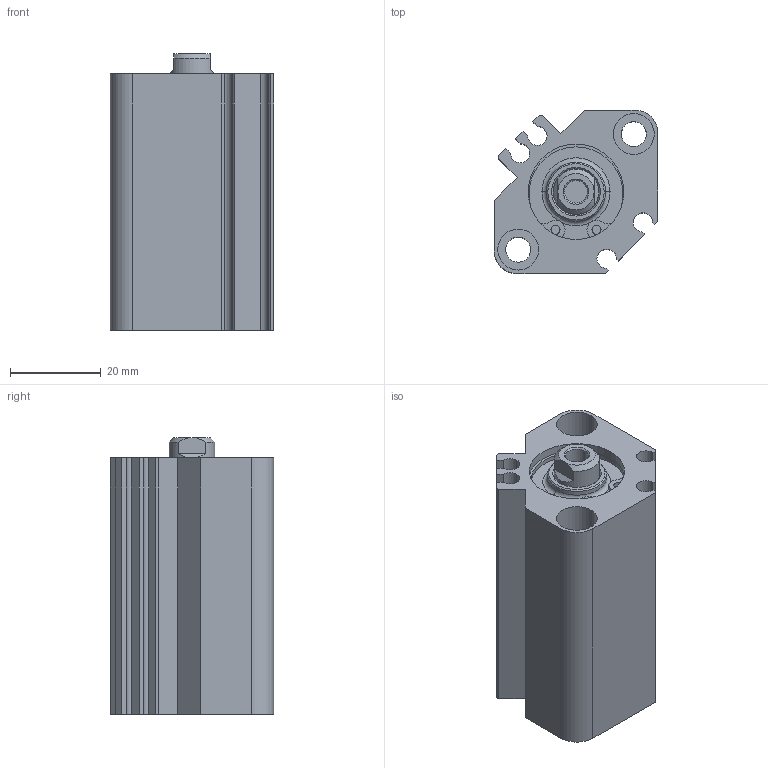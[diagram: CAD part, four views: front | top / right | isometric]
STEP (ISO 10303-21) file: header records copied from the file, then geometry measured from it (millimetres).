
FILE_DESCRIPTION (( 'STEP AP214' ), '1' );
FILE_NAME ('CDQ2B20-25DZ.step.step', '2021-07-24T22:52:47', ( '' ), ( '' ), 'SwSTEP 2.0', 'SolidWorks 2021', '' );
FILE_SCHEMA (( 'AUTOMOTIVE_DESIGN' ));
Length unit declared in the file: millimetre
Products named in the file (4): CDQ2B20-25DZ.step_CQ2 SnapRing_20; CDQ2B20-25DZ.step; CDQ2B20-25DZ.step_CQ2Tube_20BD; CDQ2B20-25DZ.step_CQ22031Rods_20
Assembly tree (3 placements, depth 2):
  CDQ2B20-25DZ.step
    CDQ2B20-25DZ.step_CQ2Tube_20BD
    CDQ2B20-25DZ.step_CQ22031Rods_20
    CDQ2B20-25DZ.step_CQ2 SnapRing_20
Bounding box: 36 x 36 x 61 mm (x, y, z)
Volume: 47597.3 mm3; surface area: 21376.8 mm2
Topology: 3 solids, 3 shells, 140 faces, 341 edges, 220 vertices
Faces by surface type: cylinder 71, plane 55, cone 12, torus 2
Entity records: 4893 total; most frequent: DIRECTION 779, CARTESIAN_POINT 753, ORIENTED_EDGE 674, EDGE_CURVE 337, AXIS2_PLACEMENT_3D 306, VERTEX_POINT 220, VECTOR 167, LINE 167
